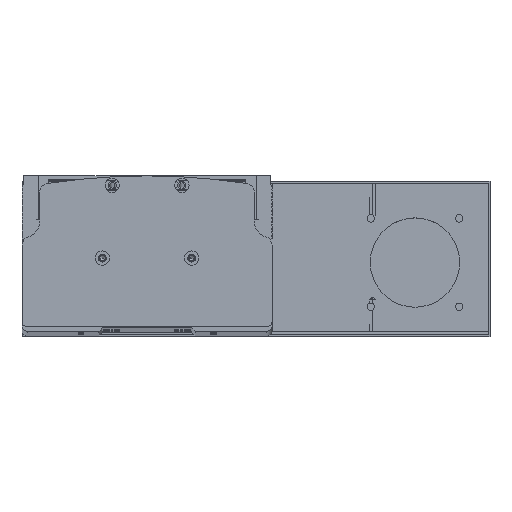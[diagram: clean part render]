
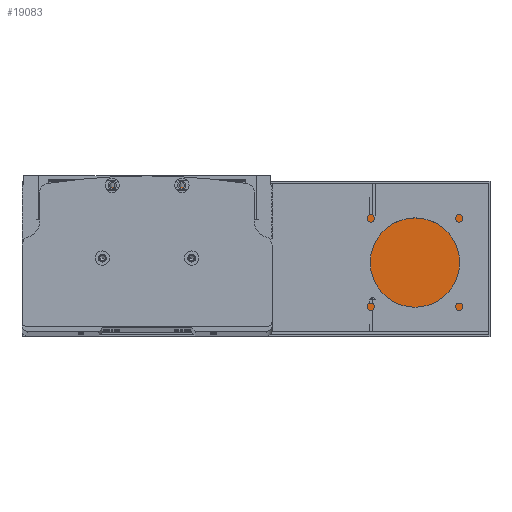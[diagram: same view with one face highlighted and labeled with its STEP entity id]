
A CAD part, top view. The second image highlights one B-rep face of the part: STEP entity #19083.
In plain terms, the highlighted planar face has unit normal (0, 0, 1).
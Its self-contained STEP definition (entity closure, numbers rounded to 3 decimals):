
#3081 = ORIENTED_EDGE ( 'NONE', *, *, #11603, .T. ) ;
#3222 = ORIENTED_EDGE ( 'NONE', *, *, #27991, .T. ) ;
#4181 = CARTESIAN_POINT ( 'NONE',  ( 0., 0., 0. ) ) ;
#6551 = CARTESIAN_POINT ( 'NONE',  ( -130., -42.5, 0. ) ) ;
#6847 = CARTESIAN_POINT ( 'NONE',  ( -130., -42.5, 0. ) ) ;
#7204 = DIRECTION ( 'NONE',  ( 1., 0., 0. ) ) ;
#9592 = ORIENTED_EDGE ( 'NONE', *, *, #36519, .T. ) ;
#9751 = CARTESIAN_POINT ( 'NONE',  ( 130., -42.5, 0. ) ) ;
#10652 = VECTOR ( 'NONE', #22783, 1000. ) ;
#11169 = EDGE_LOOP ( 'NONE', ( #9592, #31579, #3081, #3222 ) ) ;
#11330 = VECTOR ( 'NONE', #27718, 1000. ) ;
#11603 = EDGE_CURVE ( 'NONE', #34749, #14026, #18695, .T. ) ;
#11633 = VECTOR ( 'NONE', #24853, 1000. ) ;
#12961 = CARTESIAN_POINT ( 'NONE',  ( -130., 42.5, 0. ) ) ;
#14026 = VERTEX_POINT ( 'NONE', #17225 ) ;
#15311 = CARTESIAN_POINT ( 'NONE',  ( 130., 42.5, 0. ) ) ;
#17225 = CARTESIAN_POINT ( 'NONE',  ( -130., 42.5, 0. ) ) ;
#18695 = LINE ( 'NONE', #12961, #33776 ) ;
#19083 = ADVANCED_FACE ( 'NONE', ( #31583 ), #31255, .T. ) ;
#19667 = LINE ( 'NONE', #19737, #10652 ) ;
#19737 = CARTESIAN_POINT ( 'NONE',  ( -130., -42.5, 0. ) ) ;
#20346 = LINE ( 'NONE', #6551, #11330 ) ;
#22783 = DIRECTION ( 'NONE',  ( 1., 0., 0. ) ) ;
#24853 = DIRECTION ( 'NONE',  ( 0., 1., 0. ) ) ;
#25322 = DIRECTION ( 'NONE',  ( 0., 0., 1. ) ) ;
#25859 = CARTESIAN_POINT ( 'NONE',  ( 130., -42.5, 0. ) ) ;
#27718 = DIRECTION ( 'NONE',  ( 0., -1., 0. ) ) ;
#27991 = EDGE_CURVE ( 'NONE', #14026, #32616, #20346, .T. ) ;
#29221 = VERTEX_POINT ( 'NONE', #25859 ) ;
#30204 = EDGE_CURVE ( 'NONE', #29221, #34749, #36683, .T. ) ;
#31255 = PLANE ( 'NONE',  #38801 ) ;
#31579 = ORIENTED_EDGE ( 'NONE', *, *, #30204, .T. ) ;
#31583 = FACE_OUTER_BOUND ( 'NONE', #11169, .T. ) ;
#32616 = VERTEX_POINT ( 'NONE', #6847 ) ;
#33776 = VECTOR ( 'NONE', #37113, 1000. ) ;
#34749 = VERTEX_POINT ( 'NONE', #15311 ) ;
#36519 = EDGE_CURVE ( 'NONE', #32616, #29221, #19667, .T. ) ;
#36683 = LINE ( 'NONE', #9751, #11633 ) ;
#37113 = DIRECTION ( 'NONE',  ( -1., 0., 0. ) ) ;
#38801 = AXIS2_PLACEMENT_3D ( 'NONE', #4181, #25322, #7204 ) ;
